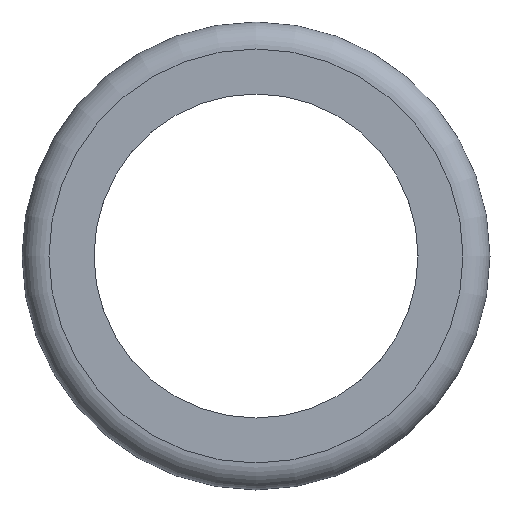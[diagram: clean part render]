
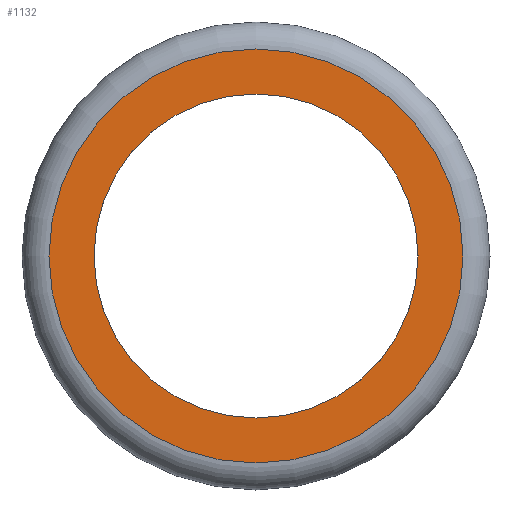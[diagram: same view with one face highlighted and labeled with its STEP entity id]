
A CAD part, front view. The second image highlights one B-rep face of the part: STEP entity #1132.
In plain terms, the highlighted planar face has unit normal (0, -1, 0).
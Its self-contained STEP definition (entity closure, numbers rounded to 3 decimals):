
#15=FACE_BOUND('',#315,.T.);
#194=PLANE('',#1255);
#254=FACE_OUTER_BOUND('',#314,.T.);
#314=EDGE_LOOP('',(#1051));
#315=EDGE_LOOP('',(#1052));
#353=CIRCLE('',#1228,9.);
#362=CIRCLE('',#1249,11.5);
#523=VERTEX_POINT('',#2365);
#529=VERTEX_POINT('',#2444);
#683=EDGE_CURVE('',#523,#523,#353,.T.);
#701=EDGE_CURVE('',#529,#529,#362,.T.);
#1051=ORIENTED_EDGE('',*,*,#701,.F.);
#1052=ORIENTED_EDGE('',*,*,#683,.T.);
#1132=ADVANCED_FACE('',(#254,#15),#194,.T.);
#1228=AXIS2_PLACEMENT_3D('',#2366,#1476,#1477);
#1249=AXIS2_PLACEMENT_3D('',#2445,#1523,#1524);
#1255=AXIS2_PLACEMENT_3D('',#2455,#1536,#1537);
#1476=DIRECTION('center_axis',(0.,1.,0.));
#1477=DIRECTION('ref_axis',(1.,0.,0.));
#1523=DIRECTION('center_axis',(0.,1.,0.));
#1524=DIRECTION('ref_axis',(1.,0.,0.));
#1536=DIRECTION('center_axis',(0.,-1.,0.));
#1537=DIRECTION('ref_axis',(1.,0.,0.));
#2365=CARTESIAN_POINT('',(-9.,-2.,0.));
#2366=CARTESIAN_POINT('Origin',(0.,-2.,0.));
#2444=CARTESIAN_POINT('',(0.,-2.,11.5));
#2445=CARTESIAN_POINT('Origin',(0.,-2.,0.));
#2455=CARTESIAN_POINT('Origin',(0.,-2.,0.));
